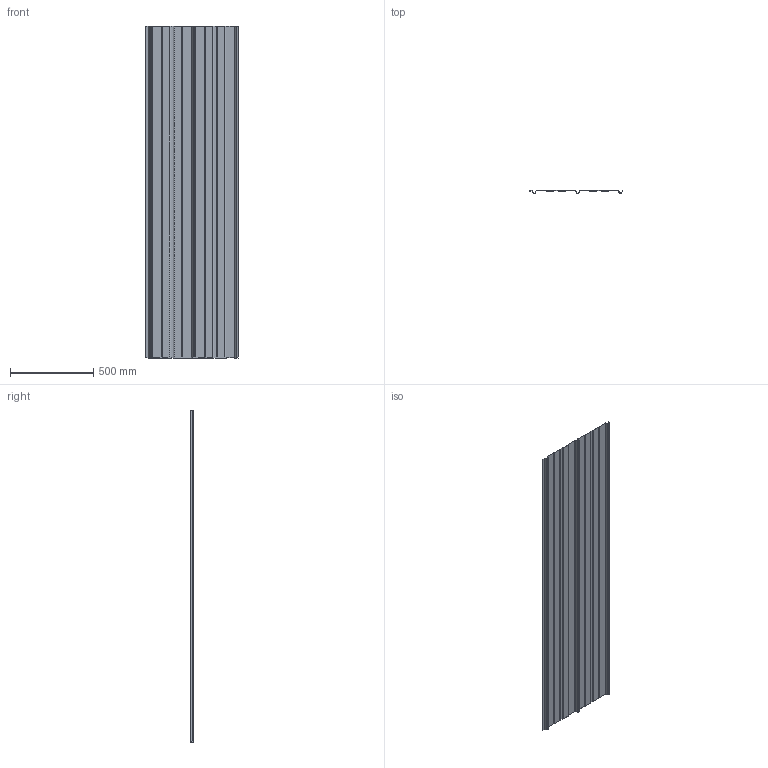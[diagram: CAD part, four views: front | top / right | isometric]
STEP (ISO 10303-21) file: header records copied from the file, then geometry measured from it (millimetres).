
FILE_DESCRIPTION (( 'STEP AP203' ), '1' );
FILE_NAME ('MS750 I.STEP', '2018-06-14T19:51:15', ( 'Michael Moliner' ), ( '' ), 'SwSTEP 2.0', 'SolidWorks 2018', '' );
FILE_SCHEMA (( 'CONFIG_CONTROL_DESIGN' ));
Length unit declared in the file: inch
Products named in the file (2): MS750 I
Bounding box: 557.18 x 17.95 x 2000 mm (x, y, z)
Volume: 637719.3 mm3; surface area: 2513375.5 mm2
Topology: 1 solids, 1 shells, 82 faces, 240 edges, 160 vertices
Faces by surface type: plane 60, cylinder 22
Entity records: 2865 total; most frequent: CARTESIAN_POINT 484, ORIENTED_EDGE 480, DIRECTION 452, EDGE_CURVE 240, LINE 196, VECTOR 196, VERTEX_POINT 160, AXIS2_PLACEMENT_3D 128
